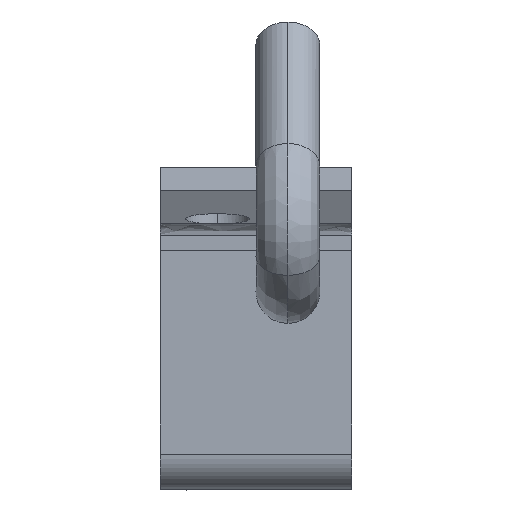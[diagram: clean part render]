
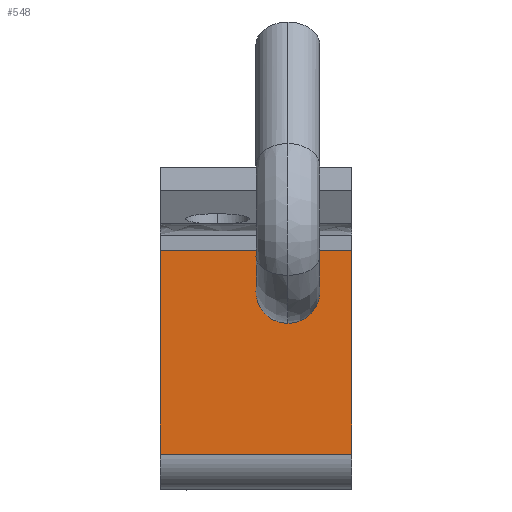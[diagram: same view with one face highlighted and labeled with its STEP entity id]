
A CAD part, left-side view. The second image highlights one B-rep face of the part: STEP entity #548.
In plain terms, the highlighted planar face has unit normal (-1, 0, 0).
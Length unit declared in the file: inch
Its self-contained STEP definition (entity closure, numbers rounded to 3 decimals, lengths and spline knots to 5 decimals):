
#298=EDGE_CURVE('',#757,#718,#758,.T.);
#300=EDGE_CURVE('',#718,#760,#761,.T.);
#430=EDGE_CURVE('',#961,#962,#963,.T.);
#520=EDGE_CURVE('',#760,#1076,#1077,.T.);
#548=ADVANCED_FACE('',(#1111,#1112),#1113,.T.);
#560=EDGE_CURVE('',#962,#961,#1125,.T.);
#594=EDGE_CURVE('',#757,#1076,#1167,.T.);
#718=VERTEX_POINT('',#1405);
#757=VERTEX_POINT('',#1467);
#758=LINE('',#1468,#1469);
#760=VERTEX_POINT('',#1472);
#761=LINE('',#1473,#1474);
#961=VERTEX_POINT('',#2112);
#962=VERTEX_POINT('',#2113);
#963=CIRCLE('',#2114,0.25);
#1076=VERTEX_POINT('',#2408);
#1077=LINE('',#2409,#2410);
#1111=FACE_OUTER_BOUND('',#2466,.T.);
#1112=FACE_BOUND('',#2467,.T.);
#1113=PLANE('',#2468);
#1125=CIRCLE('',#2493,0.25);
#1167=LINE('',#2571,#2572);
#1405=CARTESIAN_POINT('',(5.03585,1.,-1.69182));
#1467=CARTESIAN_POINT('',(5.03585,1.,-0.09806));
#1468=CARTESIAN_POINT('',(5.03585,1.,-0.09806));
#1469=VECTOR('',#3027,1.);
#1472=CARTESIAN_POINT('',(5.03585,-0.5,-1.69182));
#1473=CARTESIAN_POINT('',(5.03585,1.,-1.69182));
#1474=VECTOR('',#3028,1.);
#2112=CARTESIAN_POINT('',(5.03585,0.,-0.16842));
#2113=CARTESIAN_POINT('',(5.03585,0.,-0.66842));
#2114=AXIS2_PLACEMENT_3D('',#3236,#3237,#3238);
#2408=CARTESIAN_POINT('',(5.03585,-0.5,-0.09806));
#2409=CARTESIAN_POINT('',(5.03585,-0.5,-0.09806));
#2410=VECTOR('',#3415,1.);
#2466=EDGE_LOOP('',(#3461,#3462,#3463,#3464));
#2467=EDGE_LOOP('',(#3465,#3466));
#2468=AXIS2_PLACEMENT_3D('',#3467,#3468,#3469);
#2493=AXIS2_PLACEMENT_3D('',#3474,#3475,#3476);
#2571=CARTESIAN_POINT('',(5.03585,1.,-0.09806));
#2572=VECTOR('',#3537,1.);
#3027=DIRECTION('',(0.0,0.0,-1.0));
#3028=DIRECTION('',(0.0,-1.0,0.0));
#3236=CARTESIAN_POINT('',(5.03585,0.0,-0.41842));
#3237=DIRECTION('',(-1.0,0.0,0.0));
#3238=DIRECTION('',(0.0,0.0,1.0));
#3415=DIRECTION('',(0.0,0.0,1.0));
#3461=ORIENTED_EDGE('',*,*,#520,.T.);
#3462=ORIENTED_EDGE('',*,*,#594,.F.);
#3463=ORIENTED_EDGE('',*,*,#298,.T.);
#3464=ORIENTED_EDGE('',*,*,#300,.T.);
#3465=ORIENTED_EDGE('',*,*,#560,.F.);
#3466=ORIENTED_EDGE('',*,*,#430,.F.);
#3467=CARTESIAN_POINT('',(5.03585,1.,-0.89494));
#3468=DIRECTION('',(-1.0,0.0,0.0));
#3469=DIRECTION('',(0.0,0.0,-1.0));
#3474=CARTESIAN_POINT('',(5.03585,0.0,-0.41842));
#3475=DIRECTION('',(-1.0,0.0,0.0));
#3476=DIRECTION('',(0.0,0.0,1.0));
#3537=DIRECTION('',(0.0,-1.0,0.0));
